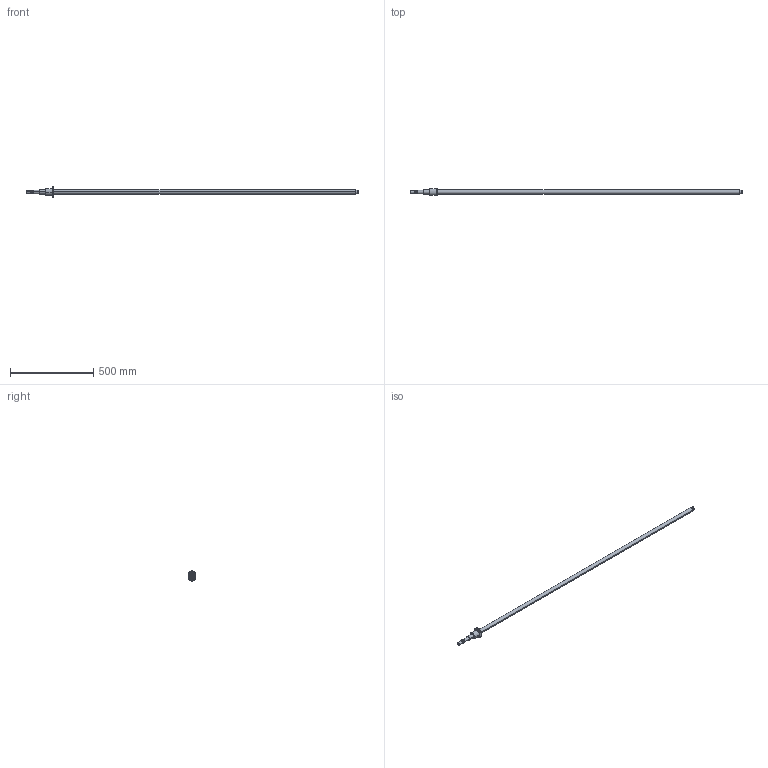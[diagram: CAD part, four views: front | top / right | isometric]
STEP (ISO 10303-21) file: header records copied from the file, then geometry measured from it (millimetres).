
FILE_DESCRIPTION (( 'STEP AP214' ), '1' );
FILE_NAME ('7.3010 STNUR2505-DFC7-2000mm.STEP', '2026-03-04T07:13:24', ( '' ), ( '' ), 'SwSTEP 2.0', 'SolidWorks 2025', '' );
FILE_SCHEMA (( 'AUTOMOTIVE_DESIGN' ));
Length unit declared in the file: millimetre
Products named in the file (3): 7.3010 STNUR2505-DFC7-2000mm; 7.3035 TCR2505-FC7; 7.3106 STNUR2505T4D
Assembly tree (2 placements, depth 2):
  7.3010 STNUR2505-DFC7-2000mm
    7.3035 TCR2505-FC7
    7.3106 STNUR2505T4D
Bounding box: 2000 x 48 x 61.8 mm (x, y, z)
Volume: 996762.1 mm3; surface area: 173293.5 mm2
Topology: 3 solids, 3 shells, 167 faces, 426 edges, 280 vertices
Faces by surface type: cylinder 87, plane 36, bspline 29, cone 9, torus 6
Entity records: 16498 total; most frequent: CARTESIAN_POINT 12678, ORIENTED_EDGE 852, DIRECTION 658, EDGE_CURVE 426, VERTEX_POINT 280, AXIS2_PLACEMENT_3D 238, EDGE_LOOP 198, VECTOR 182
